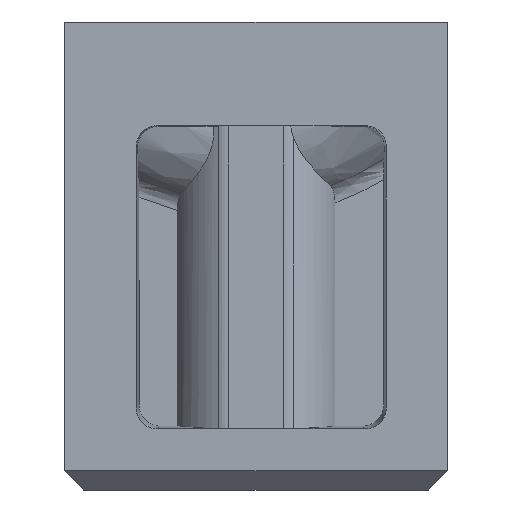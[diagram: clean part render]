
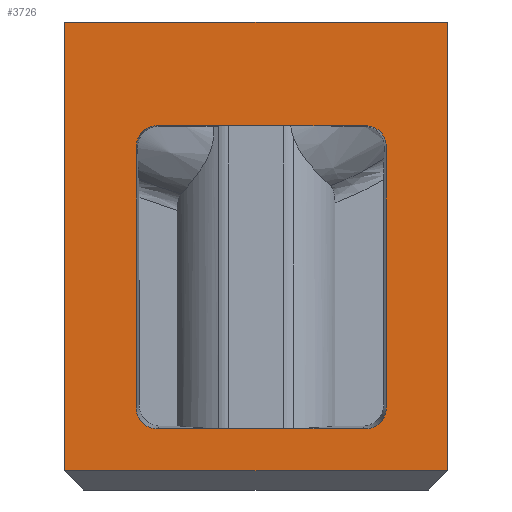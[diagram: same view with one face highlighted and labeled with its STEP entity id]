
A CAD part, front view. The second image highlights one B-rep face of the part: STEP entity #3726.
In plain terms, the highlighted planar face has unit normal (0, -1, 0).
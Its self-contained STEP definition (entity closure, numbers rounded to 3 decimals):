
#167=DIRECTION('',(-1.,0.,0.));
#168=VECTOR('',#167,18.);
#169=CARTESIAN_POINT('',(16.,-4.,2.));
#170=LINE('',#169,#168);
#792=DIRECTION('',(-1.,0.,0.));
#793=VECTOR('',#792,18.);
#794=CARTESIAN_POINT('',(16.,-4.,-19.1));
#795=LINE('',#794,#793);
#796=DIRECTION('',(0.,0.,-1.));
#797=VECTOR('',#796,21.1);
#798=CARTESIAN_POINT('',(16.,-4.,2.));
#799=LINE('',#798,#797);
#800=DIRECTION('',(-1.,0.,0.));
#801=VECTOR('',#800,9.765);
#802=CARTESIAN_POINT('',(12.132,-4.,-2.869));
#803=LINE('',#802,#801);
#804=DIRECTION('',(0.,0.,-1.));
#805=VECTOR('',#804,12.265);
#806=CARTESIAN_POINT('',(1.369,-4.,-3.868));
#807=LINE('',#806,#805);
#808=DIRECTION('',(1.,0.,0.));
#809=VECTOR('',#808,9.765);
#810=CARTESIAN_POINT('',(2.368,-4.,-17.131));
#811=LINE('',#810,#809);
#812=DIRECTION('',(0.,0.,1.));
#813=VECTOR('',#812,12.265);
#814=CARTESIAN_POINT('',(13.131,-4.,-16.132));
#815=LINE('',#814,#813);
#820=DIRECTION('',(0.,0.,-1.));
#821=VECTOR('',#820,21.1);
#822=CARTESIAN_POINT('',(-2.,-4.,2.));
#823=LINE('',#822,#821);
#846=CARTESIAN_POINT('',(12.132,-4.,-2.869));
#847=CARTESIAN_POINT('',(12.208,-4.,-2.869));
#848=CARTESIAN_POINT('',(12.356,-4.,-2.886));
#849=CARTESIAN_POINT('',(12.57,-4.,-2.96));
#850=CARTESIAN_POINT('',(12.76,-4.,-3.08));
#851=CARTESIAN_POINT('',(12.92,-4.,-3.24));
#852=CARTESIAN_POINT('',(13.04,-4.,-3.43));
#853=CARTESIAN_POINT('',(13.114,-4.,-3.644));
#854=CARTESIAN_POINT('',(13.131,-4.,-3.792));
#855=CARTESIAN_POINT('',(13.131,-4.,-3.868));
#869=CARTESIAN_POINT('',(13.131,-4.,-16.132));
#870=CARTESIAN_POINT('',(13.131,-4.,-16.208));
#871=CARTESIAN_POINT('',(13.114,-4.,-16.356));
#872=CARTESIAN_POINT('',(13.04,-4.,-16.57));
#873=CARTESIAN_POINT('',(12.92,-4.,-16.76));
#874=CARTESIAN_POINT('',(12.76,-4.,-16.92));
#875=CARTESIAN_POINT('',(12.57,-4.,-17.04));
#876=CARTESIAN_POINT('',(12.356,-4.,-17.114));
#877=CARTESIAN_POINT('',(12.208,-4.,-17.131));
#878=CARTESIAN_POINT('',(12.132,-4.,-17.131));
#919=CARTESIAN_POINT('',(2.368,-4.,-17.131));
#920=CARTESIAN_POINT('',(2.292,-4.,-17.131));
#921=CARTESIAN_POINT('',(2.144,-4.,-17.114));
#922=CARTESIAN_POINT('',(1.93,-4.,-17.04));
#923=CARTESIAN_POINT('',(1.74,-4.,-16.92));
#924=CARTESIAN_POINT('',(1.58,-4.,-16.76));
#925=CARTESIAN_POINT('',(1.46,-4.,-16.57));
#926=CARTESIAN_POINT('',(1.386,-4.,-16.356));
#927=CARTESIAN_POINT('',(1.369,-4.,-16.208));
#928=CARTESIAN_POINT('',(1.369,-4.,-16.132));
#953=CARTESIAN_POINT('',(1.369,-4.,-3.868));
#954=CARTESIAN_POINT('',(1.369,-4.,-3.792));
#955=CARTESIAN_POINT('',(1.386,-4.,-3.644));
#956=CARTESIAN_POINT('',(1.46,-4.,-3.43));
#957=CARTESIAN_POINT('',(1.58,-4.,-3.24));
#958=CARTESIAN_POINT('',(1.74,-4.,-3.08));
#959=CARTESIAN_POINT('',(1.93,-4.,-2.96));
#960=CARTESIAN_POINT('',(2.144,-4.,-2.886));
#961=CARTESIAN_POINT('',(2.292,-4.,-2.869));
#962=CARTESIAN_POINT('',(2.368,-4.,-2.869));
#1569=CARTESIAN_POINT('',(16.,-4.,-19.1));
#1570=VERTEX_POINT('',#1569);
#1573=CARTESIAN_POINT('',(-2.,-4.,-19.1));
#1574=VERTEX_POINT('',#1573);
#1598=CARTESIAN_POINT('',(16.,-4.,2.));
#1599=VERTEX_POINT('',#1598);
#1607=CARTESIAN_POINT('',(-2.,-4.,2.));
#1608=VERTEX_POINT('',#1607);
#1632=CARTESIAN_POINT('',(12.132,-4.,
-2.869));
#1633=CARTESIAN_POINT('',(2.368,-4.,
-2.869));
#1634=VERTEX_POINT('',#1632);
#1635=VERTEX_POINT('',#1633);
#1636=VERTEX_POINT('',#953);
#1637=CARTESIAN_POINT('',(1.369,-4.,
-16.132));
#1638=VERTEX_POINT('',#1637);
#1639=VERTEX_POINT('',#919);
#1640=CARTESIAN_POINT('',(12.132,-4.,
-17.131));
#1641=VERTEX_POINT('',#1640);
#1642=VERTEX_POINT('',#869);
#1643=CARTESIAN_POINT('',(13.131,-4.,
-3.868));
#1644=VERTEX_POINT('',#1643);
#3696=CARTESIAN_POINT('',(-2.,-4.,-20.));
#3697=DIRECTION('',(0.,-1.,0.));
#3698=DIRECTION('',(1.,0.,0.));
#3699=AXIS2_PLACEMENT_3D('',#3696,#3697,#3698);
#3700=PLANE('',#3699);
#3701=ORIENTED_EDGE('',*,*,#1860,.T.);
#3703=ORIENTED_EDGE('',*,*,#3702,.F.);
#3704=ORIENTED_EDGE('',*,*,#1974,.F.);
#3705=ORIENTED_EDGE('',*,*,#1937,.T.);
#3706=EDGE_LOOP('',(#3701,#3703,#3704,#3705));
#3707=FACE_OUTER_BOUND('',#3706,.F.);
#3709=ORIENTED_EDGE('',*,*,#3708,.T.);
#3711=ORIENTED_EDGE('',*,*,#3710,.F.);
#3713=ORIENTED_EDGE('',*,*,#3712,.T.);
#3715=ORIENTED_EDGE('',*,*,#3714,.F.);
#3717=ORIENTED_EDGE('',*,*,#3716,.T.);
#3719=ORIENTED_EDGE('',*,*,#3718,.F.);
#3721=ORIENTED_EDGE('',*,*,#3720,.T.);
#3723=ORIENTED_EDGE('',*,*,#3722,.F.);
#3724=EDGE_LOOP('',(#3709,#3711,#3713,#3715,#3717,#3719,#3721,#3723));
#3725=FACE_BOUND('',#3724,.F.);
#3726=ADVANCED_FACE('',(#3707,#3725),#3700,.T.);
#856=B_SPLINE_CURVE_WITH_KNOTS('',3,(#846,#847,#848,#849,#850,#851,#852,#853,
#854,#855),.UNSPECIFIED.,.F.,.F.,(4,1,1,1,1,1,1,4),(0.,0.143,
0.286,0.429,0.571,0.714,
0.857,1.),.UNSPECIFIED.);
#879=B_SPLINE_CURVE_WITH_KNOTS('',3,(#869,#870,#871,#872,#873,#874,#875,#876,
#877,#878),.UNSPECIFIED.,.F.,.F.,(4,1,1,1,1,1,1,4),(0.,0.143,
0.286,0.429,0.571,0.714,
0.857,1.),.UNSPECIFIED.);
#929=B_SPLINE_CURVE_WITH_KNOTS('',3,(#919,#920,#921,#922,#923,#924,#925,#926,
#927,#928),.UNSPECIFIED.,.F.,.F.,(4,1,1,1,1,1,1,4),(0.,0.143,
0.286,0.429,0.571,0.714,
0.857,1.),.UNSPECIFIED.);
#963=B_SPLINE_CURVE_WITH_KNOTS('',3,(#953,#954,#955,#956,#957,#958,#959,#960,
#961,#962),.UNSPECIFIED.,.F.,.F.,(4,1,1,1,1,1,1,4),(0.,0.143,
0.286,0.429,0.571,0.714,
0.857,1.),.UNSPECIFIED.);
#1860=EDGE_CURVE('',#1570,#1574,#795,.T.);
#1937=EDGE_CURVE('',#1599,#1570,#799,.T.);
#1974=EDGE_CURVE('',#1599,#1608,#170,.T.);
#3702=EDGE_CURVE('',#1608,#1574,#823,.T.);
#3708=EDGE_CURVE('',#1634,#1635,#803,.T.);
#3710=EDGE_CURVE('',#1636,#1635,#963,.T.);
#3712=EDGE_CURVE('',#1636,#1638,#807,.T.);
#3714=EDGE_CURVE('',#1639,#1638,#929,.T.);
#3716=EDGE_CURVE('',#1639,#1641,#811,.T.);
#3718=EDGE_CURVE('',#1642,#1641,#879,.T.);
#3720=EDGE_CURVE('',#1642,#1644,#815,.T.);
#3722=EDGE_CURVE('',#1634,#1644,#856,.T.);
